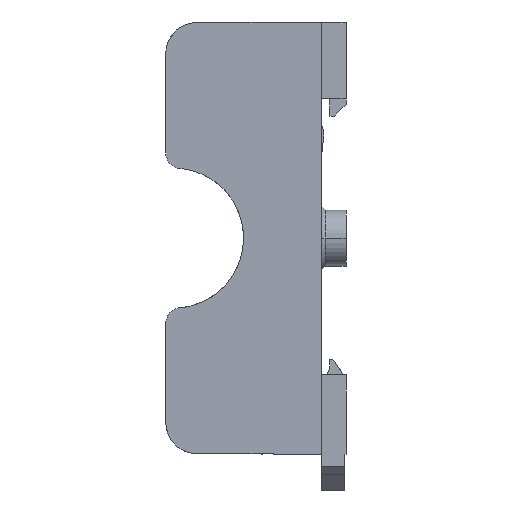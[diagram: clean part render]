
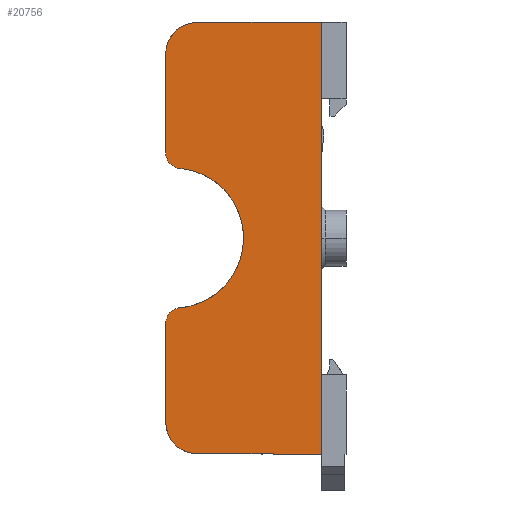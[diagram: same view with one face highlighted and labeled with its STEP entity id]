
A CAD part, left-side view. The second image highlights one B-rep face of the part: STEP entity #20756.
In plain terms, the highlighted planar face has unit normal (-1, 0.015, 0).
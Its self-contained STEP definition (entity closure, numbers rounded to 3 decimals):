
#4515=DIRECTION('',(0.,0.,-1.));
#4516=VECTOR('',#4515,9.9);
#4517=CARTESIAN_POINT('',(-8.,0.,27.8));
#4518=LINE('',#4517,#4516);
#4519=DIRECTION('',(0.,0.,-1.));
#4520=VECTOR('',#4519,3.05);
#4521=CARTESIAN_POINT('',(-8.,0.,17.9));
#4522=LINE('',#4521,#4520);
#4523=DIRECTION('',(0.,0.,-1.));
#4524=VECTOR('',#4523,38.65);
#4525=CARTESIAN_POINT('',(-8.,0.,10.85));
#4526=LINE('',#4525,#4524);
#4527=DIRECTION('',(0.015,1.,0.005));
#4528=VECTOR('',#4527,16.022);
#4529=CARTESIAN_POINT('',(-8.,0.,-27.8));
#4530=LINE('',#4529,#4528);
#4531=DIRECTION('',(-0.015,-1.,0.005));
#4532=VECTOR('',#4531,16.022);
#4533=CARTESIAN_POINT('',(-7.76,16.02,27.72));
#4534=LINE('',#4533,#4532);
#4535=DIRECTION('',(0.,0.,1.));
#4536=VECTOR('',#4535,4.);
#4537=CARTESIAN_POINT('',(-8.,0.,10.85));
#4538=LINE('',#4537,#4536);
#4583=CARTESIAN_POINT('',(-7.7,20.,-23.72));
#4584=CARTESIAN_POINT('',(-7.7,20.,-24.052));
#4585=CARTESIAN_POINT('',(-7.701,19.922,
-24.637));
#4586=CARTESIAN_POINT('',(-7.706,19.58,
-25.624));
#4587=CARTESIAN_POINT('',(-7.717,18.892,
-26.597));
#4588=CARTESIAN_POINT('',(-7.731,17.922,
-27.291));
#4589=CARTESIAN_POINT('',(-7.746,16.937,
-27.637));
#4590=CARTESIAN_POINT('',(-7.755,16.352,
-27.718));
#4591=CARTESIAN_POINT('',(-7.76,16.02,-27.72));
#4615=DIRECTION('',(0.,0.,-1.));
#4616=VECTOR('',#4615,12.765);
#4617=CARTESIAN_POINT('',(-7.7,20.,-10.954));
#4618=LINE('',#4617,#4616);
#4631=CARTESIAN_POINT('',(-7.727,18.182,
-8.963));
#4632=CARTESIAN_POINT('',(-7.723,18.485,
-8.99));
#4633=CARTESIAN_POINT('',(-7.715,18.967,
-9.159));
#4634=CARTESIAN_POINT('',(-7.707,19.505,
-9.581));
#4635=CARTESIAN_POINT('',(-7.702,19.876,
-10.155));
#4636=CARTESIAN_POINT('',(-7.7,20.,-10.65));
#4637=CARTESIAN_POINT('',(-7.7,20.,-10.954));
#4643=CARTESIAN_POINT('',(-7.727,18.182,8.963));
#4644=CARTESIAN_POINT('',(-7.737,17.5,8.9));
#4645=CARTESIAN_POINT('',(-7.756,16.286,8.639));
#4646=CARTESIAN_POINT('',(-7.786,14.239,7.769));
#4647=CARTESIAN_POINT('',(-7.817,12.232,6.178));
#4648=CARTESIAN_POINT('',(-7.838,10.83,4.035));
#4649=CARTESIAN_POINT('',(-7.848,10.15,1.917));
#4650=CARTESIAN_POINT('',(-7.85,10.,0.685));
#4651=CARTESIAN_POINT('',(-7.85,10.,0.));
#4653=CARTESIAN_POINT('',(-7.85,10.,0.));
#4654=CARTESIAN_POINT('',(-7.85,10.,-0.685));
#4655=CARTESIAN_POINT('',(-7.848,10.15,
-1.917));
#4656=CARTESIAN_POINT('',(-7.838,10.83,
-4.035));
#4657=CARTESIAN_POINT('',(-7.817,12.232,
-6.178));
#4658=CARTESIAN_POINT('',(-7.786,14.239,
-7.769));
#4659=CARTESIAN_POINT('',(-7.756,16.286,
-8.639));
#4660=CARTESIAN_POINT('',(-7.737,17.5,
-8.9));
#4661=CARTESIAN_POINT('',(-7.727,18.182,
-8.963));
#4683=CARTESIAN_POINT('',(-7.7,20.,10.954));
#4684=CARTESIAN_POINT('',(-7.7,20.,10.65));
#4685=CARTESIAN_POINT('',(-7.702,19.876,10.155));
#4686=CARTESIAN_POINT('',(-7.707,19.505,9.581));
#4687=CARTESIAN_POINT('',(-7.715,18.967,9.159));
#4688=CARTESIAN_POINT('',(-7.723,18.485,8.99));
#4689=CARTESIAN_POINT('',(-7.727,18.182,8.963));
#4707=DIRECTION('',(0.,0.,-1.));
#4708=VECTOR('',#4707,12.765);
#4709=CARTESIAN_POINT('',(-7.7,20.,23.72));
#4710=LINE('',#4709,#4708);
#4715=CARTESIAN_POINT('',(-7.76,16.02,27.72));
#4716=CARTESIAN_POINT('',(-7.755,16.352,27.718));
#4717=CARTESIAN_POINT('',(-7.746,16.937,27.637));
#4718=CARTESIAN_POINT('',(-7.731,17.922,27.291));
#4719=CARTESIAN_POINT('',(-7.717,18.892,26.597));
#4720=CARTESIAN_POINT('',(-7.706,19.58,25.624));
#4721=CARTESIAN_POINT('',(-7.701,19.922,24.637));
#4722=CARTESIAN_POINT('',(-7.7,20.,24.052));
#4723=CARTESIAN_POINT('',(-7.7,20.,23.72));
#11217=CARTESIAN_POINT('',(-7.76,16.02,-27.72));
#11218=VERTEX_POINT('',#11217);
#11219=CARTESIAN_POINT('',(-8.,0.,-27.8));
#11220=VERTEX_POINT('',#11219);
#11273=CARTESIAN_POINT('',(-8.,0.,10.85));
#11274=VERTEX_POINT('',#11273);
#11279=CARTESIAN_POINT('',(-8.,0.,14.85));
#11280=VERTEX_POINT('',#11279);
#11281=CARTESIAN_POINT('',(-8.,0.,17.9));
#11282=VERTEX_POINT('',#11281);
#12167=CARTESIAN_POINT('',(-8.,0.,27.8));
#12169=VERTEX_POINT('',#12167);
#12171=CARTESIAN_POINT('',(-7.76,16.02,27.72));
#12172=VERTEX_POINT('',#12171);
#12225=VERTEX_POINT('',#4583);
#12226=VERTEX_POINT('',#4631);
#12227=VERTEX_POINT('',#4637);
#12228=VERTEX_POINT('',#4653);
#12229=VERTEX_POINT('',#4643);
#12230=VERTEX_POINT('',#4683);
#12231=VERTEX_POINT('',#4723);
#20726=CARTESIAN_POINT('',(-7.85,10.,0.));
#20727=DIRECTION('',(1.,-0.015,0.));
#20728=DIRECTION('',(0.015,1.,0.));
#20729=AXIS2_PLACEMENT_3D('',#20726,#20727,#20728);
#20730=PLANE('',#20729);
#20731=ORIENTED_EDGE('',*,*,#20718,.T.);
#20732=ORIENTED_EDGE('',*,*,#14799,.T.);
#20734=ORIENTED_EDGE('',*,*,#20733,.F.);
#20735=ORIENTED_EDGE('',*,*,#14791,.T.);
#20736=ORIENTED_EDGE('',*,*,#18538,.T.);
#20738=ORIENTED_EDGE('',*,*,#20737,.F.);
#20740=ORIENTED_EDGE('',*,*,#20739,.F.);
#20742=ORIENTED_EDGE('',*,*,#20741,.F.);
#20744=ORIENTED_EDGE('',*,*,#20743,.F.);
#20746=ORIENTED_EDGE('',*,*,#20745,.F.);
#20748=ORIENTED_EDGE('',*,*,#20747,.F.);
#20750=ORIENTED_EDGE('',*,*,#20749,.F.);
#20752=ORIENTED_EDGE('',*,*,#20751,.F.);
#20753=ORIENTED_EDGE('',*,*,#20541,.T.);
#20754=EDGE_LOOP('',(#20731,#20732,#20734,#20735,#20736,#20738,#20740,#20742,
#20744,#20746,#20748,#20750,#20752,#20753));
#20755=FACE_OUTER_BOUND('',#20754,.F.);
#20756=ADVANCED_FACE('',(#20755),#20730,.F.);
#4592=B_SPLINE_CURVE_WITH_KNOTS('',3,(#4583,#4584,#4585,#4586,#4587,#4588,#4589,
#4590,#4591),.UNSPECIFIED.,.F.,.F.,(4,1,1,1,1,1,4),(0.,0.125,0.25,0.5,
0.75,0.875,1.),.UNSPECIFIED.);
#4638=B_SPLINE_CURVE_WITH_KNOTS('',3,(#4631,#4632,#4633,#4634,#4635,#4636,
#4637),.UNSPECIFIED.,.F.,.F.,(4,1,1,1,4),(0.,0.25,0.5,0.75,1.),
.UNSPECIFIED.);
#4652=B_SPLINE_CURVE_WITH_KNOTS('',3,(#4643,#4644,#4645,#4646,#4647,#4648,#4649,
#4650,#4651),.UNSPECIFIED.,.F.,.F.,(4,1,1,1,1,1,4),(0.,0.125,0.25,0.5,
0.75,0.875,1.),.UNSPECIFIED.);
#4662=B_SPLINE_CURVE_WITH_KNOTS('',3,(#4653,#4654,#4655,#4656,#4657,#4658,#4659,
#4660,#4661),.UNSPECIFIED.,.F.,.F.,(4,1,1,1,1,1,4),(0.,0.125,0.25,0.5,
0.75,0.875,1.),.UNSPECIFIED.);
#4690=B_SPLINE_CURVE_WITH_KNOTS('',3,(#4683,#4684,#4685,#4686,#4687,#4688,
#4689),.UNSPECIFIED.,.F.,.F.,(4,1,1,1,4),(0.,0.25,0.5,0.75,1.),
.UNSPECIFIED.);
#4724=B_SPLINE_CURVE_WITH_KNOTS('',3,(#4715,#4716,#4717,#4718,#4719,#4720,#4721,
#4722,#4723),.UNSPECIFIED.,.F.,.F.,(4,1,1,1,1,1,4),(0.,0.125,0.25,0.5,
0.75,0.875,1.),.UNSPECIFIED.);
#14791=EDGE_CURVE('',#11274,#11220,#4526,.T.);
#14799=EDGE_CURVE('',#11282,#11280,#4522,.T.);
#18538=EDGE_CURVE('',#11220,#11218,#4530,.T.);
#20541=EDGE_CURVE('',#12172,#12169,#4534,.T.);
#20718=EDGE_CURVE('',#12169,#11282,#4518,.T.);
#20733=EDGE_CURVE('',#11274,#11280,#4538,.T.);
#20737=EDGE_CURVE('',#12225,#11218,#4592,.T.);
#20739=EDGE_CURVE('',#12227,#12225,#4618,.T.);
#20741=EDGE_CURVE('',#12226,#12227,#4638,.T.);
#20743=EDGE_CURVE('',#12228,#12226,#4662,.T.);
#20745=EDGE_CURVE('',#12229,#12228,#4652,.T.);
#20747=EDGE_CURVE('',#12230,#12229,#4690,.T.);
#20749=EDGE_CURVE('',#12231,#12230,#4710,.T.);
#20751=EDGE_CURVE('',#12172,#12231,#4724,.T.);
